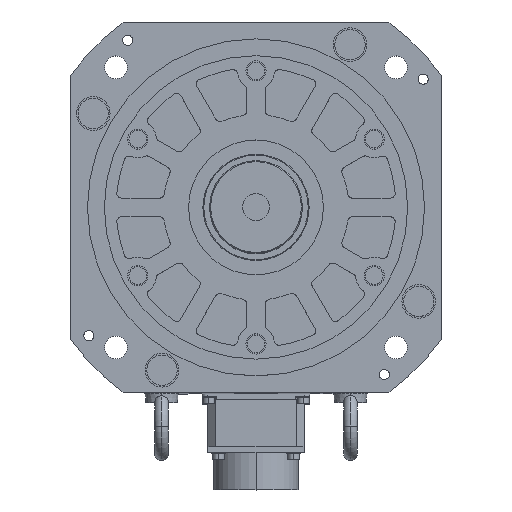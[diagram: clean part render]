
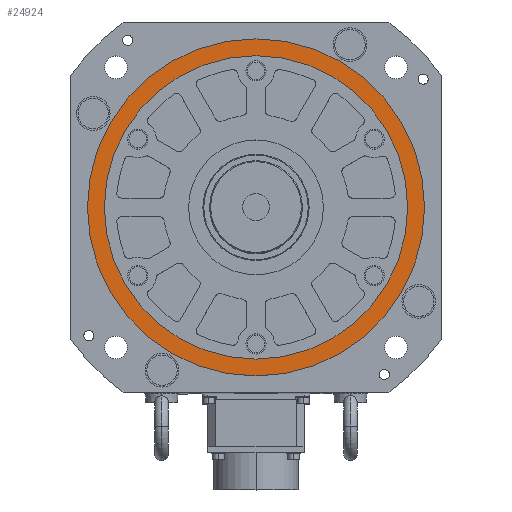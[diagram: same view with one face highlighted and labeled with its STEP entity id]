
A CAD part, top view. The second image highlights one B-rep face of the part: STEP entity #24924.
In plain terms, the highlighted planar face has unit normal (0, 0, 1).
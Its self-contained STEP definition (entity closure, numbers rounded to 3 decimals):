
#942 = DIRECTION ( 'NONE',  ( 1., 0., 0. ) ) ;
#1539 = AXIS2_PLACEMENT_3D ( 'NONE', #18106, #7755, #21300 ) ;
#1540 = ORIENTED_EDGE ( 'NONE', *, *, #38382, .T. ) ;
#2978 = VERTEX_POINT ( 'NONE', #29806 ) ;
#3655 = DIRECTION ( 'NONE',  ( 0., 0., -1. ) ) ;
#5352 = PLANE ( 'NONE',  #16780 ) ;
#7326 = CARTESIAN_POINT ( 'NONE',  ( 0., 0., 4. ) ) ;
#7755 = DIRECTION ( 'NONE',  ( 0., 0., -1. ) ) ;
#8657 = CIRCLE ( 'NONE', #21802, 90. ) ;
#9010 = ORIENTED_EDGE ( 'NONE', *, *, #14134, .F. ) ;
#10493 = VERTEX_POINT ( 'NONE', #21777 ) ;
#11153 = CARTESIAN_POINT ( 'NONE',  ( 0., 0., 4. ) ) ;
#11905 = EDGE_LOOP ( 'NONE', ( #17106, #9010 ) ) ;
#12895 = FACE_OUTER_BOUND ( 'NONE', #11905, .T. ) ;
#13704 = DIRECTION ( 'NONE',  ( 1., 0., 0. ) ) ;
#14134 = EDGE_CURVE ( 'NONE', #10493, #25730, #15301, .T. ) ;
#15301 = CIRCLE ( 'NONE', #29882, 100. ) ;
#16449 = EDGE_LOOP ( 'NONE', ( #1540, #27748 ) ) ;
#16725 = AXIS2_PLACEMENT_3D ( 'NONE', #7326, #3655, #13704 ) ;
#16780 = AXIS2_PLACEMENT_3D ( 'NONE', #31917, #22320, #22462 ) ;
#17106 = ORIENTED_EDGE ( 'NONE', *, *, #23672, .F. ) ;
#17426 = CARTESIAN_POINT ( 'NONE',  ( 100., 0., 4. ) ) ;
#18106 = CARTESIAN_POINT ( 'NONE',  ( 0., 0., 4. ) ) ;
#21063 = DIRECTION ( 'NONE',  ( 1., 0., 0. ) ) ;
#21191 = CARTESIAN_POINT ( 'NONE',  ( 0., 0., 4. ) ) ;
#21300 = DIRECTION ( 'NONE',  ( 1., 0., 0. ) ) ;
#21777 = CARTESIAN_POINT ( 'NONE',  ( -100., 0., 4. ) ) ;
#21802 = AXIS2_PLACEMENT_3D ( 'NONE', #21191, #37918, #21063 ) ;
#22320 = DIRECTION ( 'NONE',  ( 0., 0., 1. ) ) ;
#22462 = DIRECTION ( 'NONE',  ( 1., 0., 0. ) ) ;
#23672 = EDGE_CURVE ( 'NONE', #25730, #10493, #36301, .T. ) ;
#24924 = ADVANCED_FACE ( 'NONE', ( #40365, #12895 ), #5352, .T. ) ;
#25730 = VERTEX_POINT ( 'NONE', #17426 ) ;
#25860 = EDGE_CURVE ( 'NONE', #2978, #40122, #8657, .T. ) ;
#27748 = ORIENTED_EDGE ( 'NONE', *, *, #25860, .T. ) ;
#29806 = CARTESIAN_POINT ( 'NONE',  ( -90., 0., 4. ) ) ;
#29882 = AXIS2_PLACEMENT_3D ( 'NONE', #11153, #40564, #942 ) ;
#31917 = CARTESIAN_POINT ( 'NONE',  ( -100.01, -100.01, 4. ) ) ;
#36301 = CIRCLE ( 'NONE', #16725, 100. ) ;
#37484 = CIRCLE ( 'NONE', #1539, 90. ) ;
#37869 = CARTESIAN_POINT ( 'NONE',  ( 90., 0., 4. ) ) ;
#37918 = DIRECTION ( 'NONE',  ( 0., 0., -1. ) ) ;
#38382 = EDGE_CURVE ( 'NONE', #40122, #2978, #37484, .T. ) ;
#40122 = VERTEX_POINT ( 'NONE', #37869 ) ;
#40365 = FACE_BOUND ( 'NONE', #16449, .T. ) ;
#40564 = DIRECTION ( 'NONE',  ( 0., 0., -1. ) ) ;
